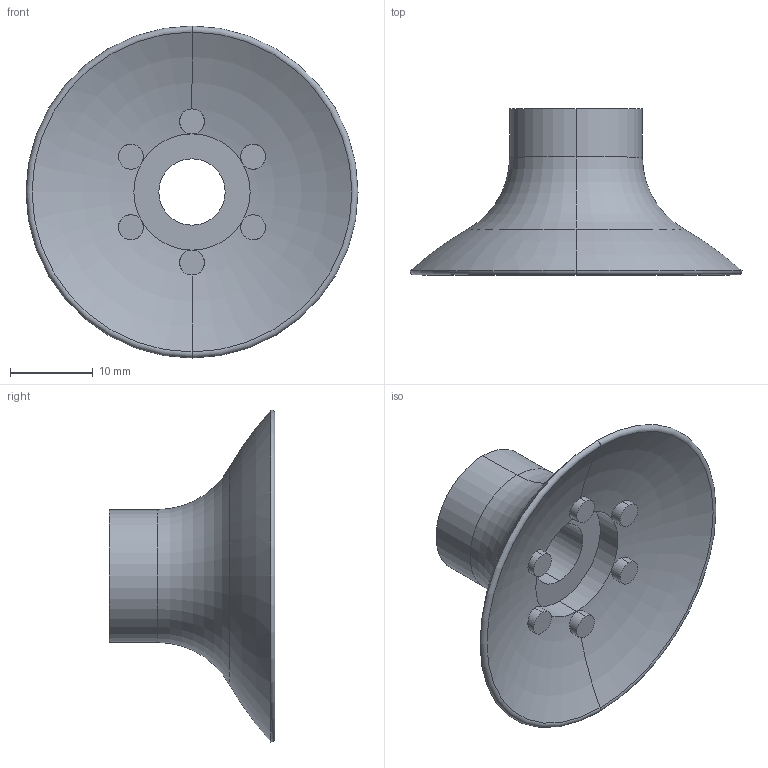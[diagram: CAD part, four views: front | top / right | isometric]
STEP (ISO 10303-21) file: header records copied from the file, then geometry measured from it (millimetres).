
FILE_DESCRIPTION (( 'STEP AP214' ), '1' );
FILE_NAME ('10F.040.005.01.STEP', '2025-04-30T17:06:55', ( '' ), ( '' ), 'SwSTEP 2.0', 'SolidWorks 2018', '' );
FILE_SCHEMA (( 'AUTOMOTIVE_DESIGN' ));
Length unit declared in the file: millimetre
Products named in the file (1): 10F.040.005.01
Bounding box: 40 x 20 x 40 mm (x, y, z)
Volume: 4991.4 mm3; surface area: 3817.8 mm2
Topology: 1 solids, 1 shells, 34 faces, 84 edges, 48 vertices
Faces by surface type: cylinder 18, plane 8, torus 8
Entity records: 1526 total; most frequent: CARTESIAN_POINT 733, DIRECTION 172, ORIENTED_EDGE 152, AXIS2_PLACEMENT_3D 77, EDGE_CURVE 76, VERTEX_POINT 44, CIRCLE 42, EDGE_LOOP 36
